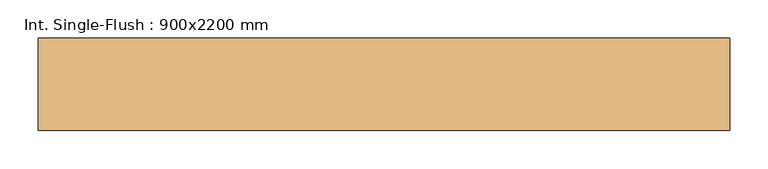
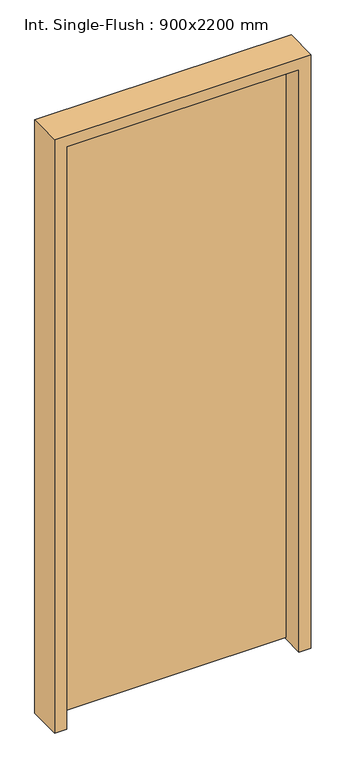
"""IFC4 building model written with IfcOpenShell, lengths in millimetres: door geometry, Int. Single-Flush : 900x2200 mm."""

from ifc_helpers import new_model, si_unit, frame, origin, place, context, project, spatial, polyline, outline, extrude, faceted_brep, source, transform, mapped, element, save


def int_single_flush_900x2200_mm_58b118df(model_context):
    return source(origin(), model_context, "Body", "SolidModel", [
        extrude(outline(polyline([(420.0, 20.0), (-420.0, 20.0), (-420.0, 60.0), (420.0, 60.0), (420.0, 20.0)])), frame((0.0, 0.0, 5.0), z_axis=(0.0, 0.0, 1.0), x_axis=(1.0, 0.0, 0.0)), (0.0, 0.0, 1.0), 2165.0),
        faceted_brep([(-420.0, 60.0, 0.0), (-420.0, 20.0, 0.0), (-408.0, 20.0, 0.0), (-408.0, -60.0, 0.0), (-450.0, -60.0, 0.0), (-450.0, 60.0, 0.0), (-420.0, 60.0, 2170.0), (-420.0, 20.0, 2170.0), (420.0, 20.0, 2170.0), (420.0, 20.0, 0.0), (408.0, 20.0, 0.0), (408.0, 20.0, 2158.0), (-408.0, 20.0, 2158.0), (-408.0, -60.0, 2158.0), (408.0, -60.0, 2158.0), (408.0, -60.0, 0.0), (450.0, -60.0, 0.0), (450.0, -60.0, 2200.0), (-450.0, -60.0, 2200.0), (-450.0, 60.0, 2200.0), (450.0, 60.0, 2200.0), (450.0, 60.0, 0.0), (420.0, 60.0, 0.0), (420.0, 60.0, 2170.0)], [[[0, 1, 2, 3, 4, 5]], [[1, 0, 6, 7]], [[2, 1, 7, 8, 9, 10, 11, 12]], [[3, 2, 12, 13]], [[4, 3, 13, 14, 15, 16, 17, 18]], [[5, 4, 18, 19]], [[0, 5, 19, 20, 21, 22, 23, 6]], [[9, 8, 23, 22]], [[10, 9, 22, 21, 16, 15]], [[11, 10, 15, 14]], [[17, 16, 21, 20]], [[7, 6, 23, 8]], [[12, 11, 14, 13]], [[18, 17, 20, 19]]]),
    ])


if __name__ == "__main__":
    model = new_model("IFC4")
    model_context = context("Model", 3, world=origin())
    ifc_project = project(units=[si_unit("LENGTHUNIT", "METRE", prefix="MILLI")], contexts=[model_context])
    site = spatial("IfcSite", under=ifc_project)
    building = spatial("IfcBuilding", under=site)
    placement = place(None, origin())
    int_single_flush_900x2200_mm_shape = int_single_flush_900x2200_mm_58b118df(model_context)
    element("IfcDoor", 1, ObjectType="Int. Single-Flush : 900x2200 mm", at=placement, inside=building, context=model_context, shape_type="MappedRepresentation", body=[
        mapped(int_single_flush_900x2200_mm_shape, transform((0.0, 0.0, 0.0), x_axis=(1.0, 0.0, 0.0), y_axis=(0.0, 1.0, 0.0), z_axis=(0.0, 0.0, 1.0))),
    ])
    save(model, "model.ifc")
